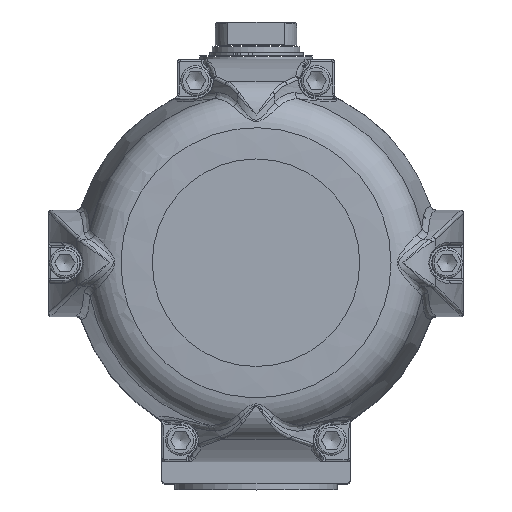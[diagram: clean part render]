
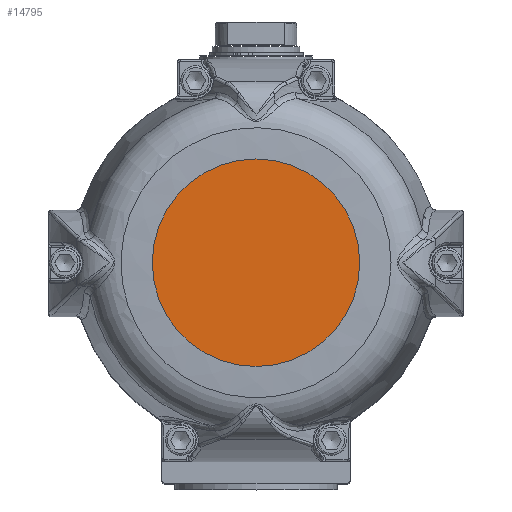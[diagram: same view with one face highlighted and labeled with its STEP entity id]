
A CAD part, top view. The second image highlights one B-rep face of the part: STEP entity #14795.
In plain terms, the highlighted planar face has unit normal (0, 0, 1).
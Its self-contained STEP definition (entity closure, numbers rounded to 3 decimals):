
#14779=CARTESIAN_POINT('',(41.25,0.,347.5));
#14780=DIRECTION('',(0.0,0.0,1.0));
#14781=DIRECTION('',(0.0,1.0,0.0));
#14782=AXIS2_PLACEMENT_3D('',#14779,#14780,#14781);
#14783=PLANE('',#14782);
#14784=CARTESIAN_POINT('',(82.5,0.,347.5));
#14785=VERTEX_POINT('',#14784);
#14786=CARTESIAN_POINT('',(0.,0.,347.5));
#14787=DIRECTION('',(0.0,0.0,-1.0));
#14788=DIRECTION('',(1.0,0.0,0.0));
#14789=AXIS2_PLACEMENT_3D('',#14786,#14787,#14788);
#14790=CIRCLE('',#14789,82.5);
#14791=EDGE_CURVE('',#14785,#14785,#14790,.T.);
#14792=ORIENTED_EDGE('',*,*,#14791,.F.);
#14793=EDGE_LOOP('',(#14792));
#14794=FACE_OUTER_BOUND('',#14793,.T.);
#14795=ADVANCED_FACE('',(#14794),#14783,.T.);
